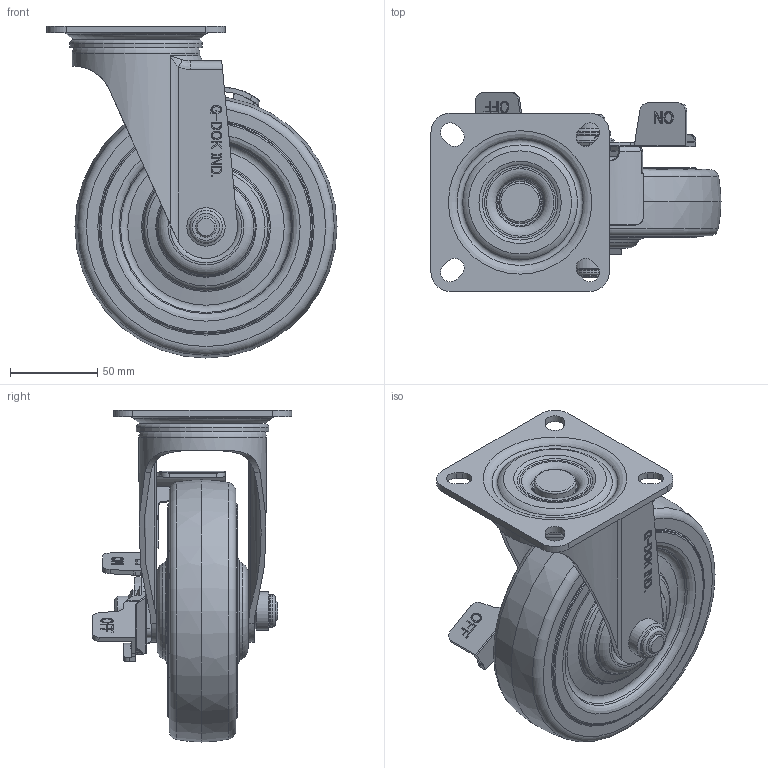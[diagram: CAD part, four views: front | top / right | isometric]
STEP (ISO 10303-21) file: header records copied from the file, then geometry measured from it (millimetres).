
FILE_DESCRIPTION(/* description */ (''),/* implementation_level */ '2;1');
FILE_NAME(/* name */ 'C:\Users\황치선\Desktop\진행도면\\X2\B514C2A4D06CD720\X0\ 홈피용 도면\1\RT1-150-BSF-DISK WHEEL.stp',/* time_stamp */ '2016-03-26T10:46:17+09:00',/* author */ ('황치선'),/* organization */ (''),/* preprocessor_version */ 'ST-DEVELOPER v15.6',/* originating_system */ 'Autodesk Inventor 2015',/* authorisation */ '');
FILE_SCHEMA (('AUTOMOTIVE_DESIGN { 1 0 10303 214 3 1 1 }'));
Length unit declared in the file: centimetre
Products named in the file (1): RT1-150-BSF-DISK WHEEL
Bounding box: 166 x 114.1 x 190 mm (x, y, z)
Volume: 457615.9 mm3; surface area: 179508.5 mm2
Topology: 1 solids, 5 shells, 841 faces, 2221 edges, 1412 vertices
Faces by surface type: plane 321, cylinder 179, bspline 151, torus 144, cone 32, sphere 14
Full cylindrical faces by diameter (mm): 12 x1, 17 x1, 17.8 x1, 18.5 x1, 19.8 x1, 21.4 x4, 21.939 x1, 24 x2, 24.4 x1, 26 x2, 28 x1, 28.6 x4, 29 x2, 35 x4, 38 x2, 54.5 x1, 67 x1, 73 x1, 75.8 x1, 119 x2
Entity records: 28969 total; most frequent: CARTESIAN_POINT 9068, ORIENTED_EDGE 4028, DIRECTION 3523, EDGE_CURVE 2014, VERTEX_POINT 1364, AXIS2_PLACEMENT_3D 1296, EDGE_LOOP 1078, LINE 931
